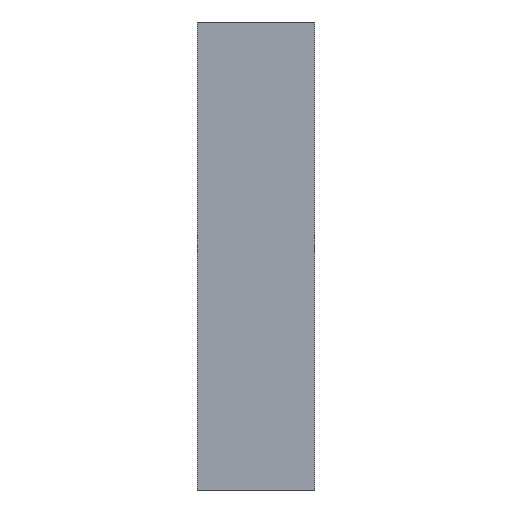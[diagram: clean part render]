
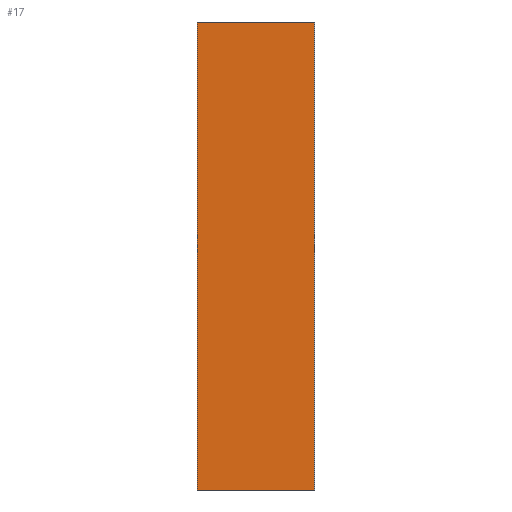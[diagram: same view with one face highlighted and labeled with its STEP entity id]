
A CAD part, left-side view. The second image highlights one B-rep face of the part: STEP entity #17.
In plain terms, the highlighted planar face has unit normal (-1, 0, 0).
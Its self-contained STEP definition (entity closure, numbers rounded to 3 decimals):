
#17 = ADVANCED_FACE('',(#18),#32,.F.);
#18 = FACE_BOUND('',#19,.F.);
#19 = EDGE_LOOP('',(#20,#55,#83,#111));
#20 = ORIENTED_EDGE('',*,*,#21,.F.);
#21 = EDGE_CURVE('',#22,#24,#26,.T.);
#22 = VERTEX_POINT('',#23);
#23 = CARTESIAN_POINT('',(-345.,-94.913,2.));
#24 = VERTEX_POINT('',#25);
#25 = CARTESIAN_POINT('',(-345.,-94.913,14.));
#26 = SURFACE_CURVE('',#27,(#31,#43),.PCURVE_S1.);
#27 = LINE('',#28,#29);
#28 = CARTESIAN_POINT('',(-345.,-94.913,2.));
#29 = VECTOR('',#30,1.);
#30 = DIRECTION('',(0.,0.,1.));
#31 = PCURVE('',#32,#37);
#32 = PLANE('',#33);
#33 = AXIS2_PLACEMENT_3D('',#34,#35,#36);
#34 = CARTESIAN_POINT('',(-345.,-94.913,2.));
#35 = DIRECTION('',(1.,0.,-0.));
#36 = DIRECTION('',(0.,0.,1.));
#37 = DEFINITIONAL_REPRESENTATION('',(#38),#42);
#38 = LINE('',#39,#40);
#39 = CARTESIAN_POINT('',(0.,0.));
#40 = VECTOR('',#41,1.);
#41 = DIRECTION('',(1.,0.));
#42 = ( GEOMETRIC_REPRESENTATION_CONTEXT(2) 
PARAMETRIC_REPRESENTATION_CONTEXT() REPRESENTATION_CONTEXT('2D SPACE',''
  ) );
#43 = PCURVE('',#44,#49);
#44 = PLANE('',#45);
#45 = AXIS2_PLACEMENT_3D('',#46,#47,#48);
#46 = CARTESIAN_POINT('',(-345.,-94.913,2.));
#47 = DIRECTION('',(-0.,1.,0.));
#48 = DIRECTION('',(0.,0.,1.));
#49 = DEFINITIONAL_REPRESENTATION('',(#50),#54);
#50 = LINE('',#51,#52);
#51 = CARTESIAN_POINT('',(0.,0.));
#52 = VECTOR('',#53,1.);
#53 = DIRECTION('',(1.,0.));
#54 = ( GEOMETRIC_REPRESENTATION_CONTEXT(2) 
PARAMETRIC_REPRESENTATION_CONTEXT() REPRESENTATION_CONTEXT('2D SPACE',''
  ) );
#55 = ORIENTED_EDGE('',*,*,#56,.T.);
#56 = EDGE_CURVE('',#22,#57,#59,.T.);
#57 = VERTEX_POINT('',#58);
#58 = CARTESIAN_POINT('',(-345.,-91.913,2.));
#59 = SURFACE_CURVE('',#60,(#64,#71),.PCURVE_S1.);
#60 = LINE('',#61,#62);
#61 = CARTESIAN_POINT('',(-345.,-94.913,2.));
#62 = VECTOR('',#63,1.);
#63 = DIRECTION('',(-0.,1.,0.));
#64 = PCURVE('',#32,#65);
#65 = DEFINITIONAL_REPRESENTATION('',(#66),#70);
#66 = LINE('',#67,#68);
#67 = CARTESIAN_POINT('',(0.,0.));
#68 = VECTOR('',#69,1.);
#69 = DIRECTION('',(0.,-1.));
#70 = ( GEOMETRIC_REPRESENTATION_CONTEXT(2) 
PARAMETRIC_REPRESENTATION_CONTEXT() REPRESENTATION_CONTEXT('2D SPACE',''
  ) );
#71 = PCURVE('',#72,#77);
#72 = PLANE('',#73);
#73 = AXIS2_PLACEMENT_3D('',#74,#75,#76);
#74 = CARTESIAN_POINT('',(-345.,-94.913,2.));
#75 = DIRECTION('',(0.,0.,1.));
#76 = DIRECTION('',(1.,0.,-0.));
#77 = DEFINITIONAL_REPRESENTATION('',(#78),#82);
#78 = LINE('',#79,#80);
#79 = CARTESIAN_POINT('',(0.,0.));
#80 = VECTOR('',#81,1.);
#81 = DIRECTION('',(0.,1.));
#82 = ( GEOMETRIC_REPRESENTATION_CONTEXT(2) 
PARAMETRIC_REPRESENTATION_CONTEXT() REPRESENTATION_CONTEXT('2D SPACE',''
  ) );
#83 = ORIENTED_EDGE('',*,*,#84,.T.);
#84 = EDGE_CURVE('',#57,#85,#87,.T.);
#85 = VERTEX_POINT('',#86);
#86 = CARTESIAN_POINT('',(-345.,-91.913,14.));
#87 = SURFACE_CURVE('',#88,(#92,#99),.PCURVE_S1.);
#88 = LINE('',#89,#90);
#89 = CARTESIAN_POINT('',(-345.,-91.913,2.));
#90 = VECTOR('',#91,1.);
#91 = DIRECTION('',(0.,0.,1.));
#92 = PCURVE('',#32,#93);
#93 = DEFINITIONAL_REPRESENTATION('',(#94),#98);
#94 = LINE('',#95,#96);
#95 = CARTESIAN_POINT('',(0.,-3.));
#96 = VECTOR('',#97,1.);
#97 = DIRECTION('',(1.,0.));
#98 = ( GEOMETRIC_REPRESENTATION_CONTEXT(2) 
PARAMETRIC_REPRESENTATION_CONTEXT() REPRESENTATION_CONTEXT('2D SPACE',''
  ) );
#99 = PCURVE('',#100,#105);
#100 = PLANE('',#101);
#101 = AXIS2_PLACEMENT_3D('',#102,#103,#104);
#102 = CARTESIAN_POINT('',(-345.,-91.913,2.));
#103 = DIRECTION('',(-0.,1.,0.));
#104 = DIRECTION('',(0.,0.,1.));
#105 = DEFINITIONAL_REPRESENTATION('',(#106),#110);
#106 = LINE('',#107,#108);
#107 = CARTESIAN_POINT('',(0.,0.));
#108 = VECTOR('',#109,1.);
#109 = DIRECTION('',(1.,0.));
#110 = ( GEOMETRIC_REPRESENTATION_CONTEXT(2) 
PARAMETRIC_REPRESENTATION_CONTEXT() REPRESENTATION_CONTEXT('2D SPACE',''
  ) );
#111 = ORIENTED_EDGE('',*,*,#112,.F.);
#112 = EDGE_CURVE('',#24,#85,#113,.T.);
#113 = SURFACE_CURVE('',#114,(#118,#125),.PCURVE_S1.);
#114 = LINE('',#115,#116);
#115 = CARTESIAN_POINT('',(-345.,-94.913,14.));
#116 = VECTOR('',#117,1.);
#117 = DIRECTION('',(-0.,1.,0.));
#118 = PCURVE('',#32,#119);
#119 = DEFINITIONAL_REPRESENTATION('',(#120),#124);
#120 = LINE('',#121,#122);
#121 = CARTESIAN_POINT('',(12.,0.));
#122 = VECTOR('',#123,1.);
#123 = DIRECTION('',(0.,-1.));
#124 = ( GEOMETRIC_REPRESENTATION_CONTEXT(2) 
PARAMETRIC_REPRESENTATION_CONTEXT() REPRESENTATION_CONTEXT('2D SPACE',''
  ) );
#125 = PCURVE('',#126,#131);
#126 = PLANE('',#127);
#127 = AXIS2_PLACEMENT_3D('',#128,#129,#130);
#128 = CARTESIAN_POINT('',(-345.,-94.913,14.));
#129 = DIRECTION('',(0.,0.,1.));
#130 = DIRECTION('',(1.,0.,-0.));
#131 = DEFINITIONAL_REPRESENTATION('',(#132),#136);
#132 = LINE('',#133,#134);
#133 = CARTESIAN_POINT('',(0.,0.));
#134 = VECTOR('',#135,1.);
#135 = DIRECTION('',(0.,1.));
#136 = ( GEOMETRIC_REPRESENTATION_CONTEXT(2) 
PARAMETRIC_REPRESENTATION_CONTEXT() REPRESENTATION_CONTEXT('2D SPACE',''
  ) );
